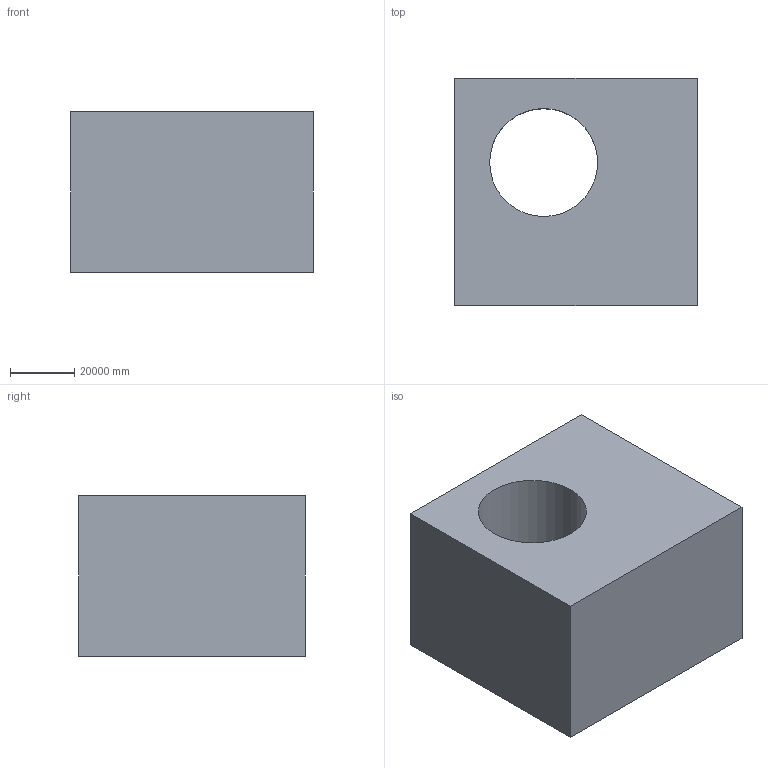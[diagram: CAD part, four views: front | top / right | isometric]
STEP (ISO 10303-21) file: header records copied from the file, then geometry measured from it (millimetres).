
FILE_DESCRIPTION(('Open CASCADE Model'),'2;1');
FILE_NAME('Open CASCADE Shape Model','2019-10-08T17:50:59',('Author'),( 'Open CASCADE'),'Open CASCADE STEP processor 7.3','Open CASCADE 7.3' ,'Unknown');
FILE_SCHEMA(('AUTOMOTIVE_DESIGN { 1 0 10303 214 1 1 1 1 }'));
Length unit declared in the file: metre
Products named in the file (1): Open CASCADE STEP translator 7.3 1
Bounding box: 75584.35 x 70586.52 x 50000 mm (x, y, z)
Volume: 222309236125821.5 mm3; surface area: 28794377717.7 mm2
Topology: 1 solids, 1 shells, 7 faces, 15 edges, 10 vertices
Faces by surface type: plane 6, cylinder 1
Full cylindrical faces by diameter (mm): 33644.851 x1
Entity records: 400 total; most frequent: CARTESIAN_POINT 63, DIRECTION 63, LINE 41, VECTOR 41, ORIENTED_EDGE 30, PCURVE 30, DEFINITIONAL_REPRESENTATION 30, EDGE_CURVE 15
